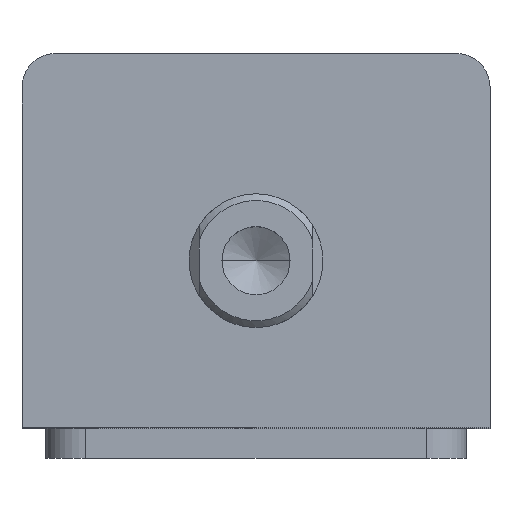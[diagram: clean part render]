
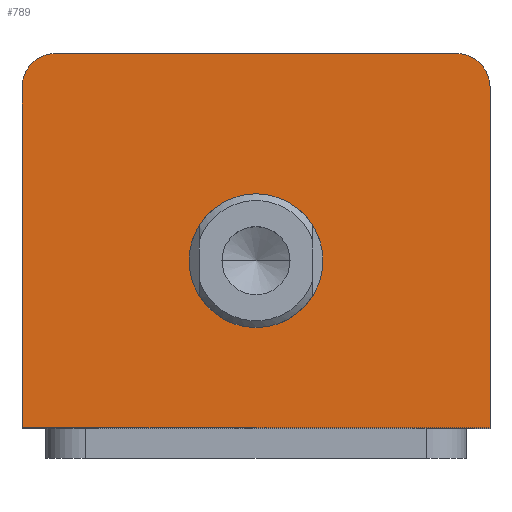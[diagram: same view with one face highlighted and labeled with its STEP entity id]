
A CAD part, top view. The second image highlights one B-rep face of the part: STEP entity #789.
In plain terms, the highlighted planar face has unit normal (0, 0, 1).
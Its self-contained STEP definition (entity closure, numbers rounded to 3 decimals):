
#14 = EDGE_LOOP ( 'NONE', ( #639, #743 ) ) ;
#86 = EDGE_LOOP ( 'NONE', ( #984, #1005, #1006, #1003, #1004, #1007 ) ) ;
#178 = EDGE_CURVE ( 'NONE', #2885, #2841, #2986, .T. ) ;
#198 = EDGE_CURVE ( 'NONE', #2855, #2857, #3021, .T. ) ;
#262 = EDGE_CURVE ( 'NONE', #2853, #2819, #2275, .T. ) ;
#287 = EDGE_CURVE ( 'NONE', #2880, #2855, #2315, .T. ) ;
#319 = DIRECTION ( 'NONE',  ( 1., 0., 0. ) ) ;
#320 = DIRECTION ( 'NONE',  ( 0., 0., 1. ) ) ;
#321 = CARTESIAN_POINT ( 'NONE',  ( 0., -3., 69. ) ) ;
#330 = DIRECTION ( 'NONE',  ( 1., 0., 0. ) ) ;
#331 = DIRECTION ( 'NONE',  ( 0., 0., 1. ) ) ;
#332 = CARTESIAN_POINT ( 'NONE',  ( -30., 23., 69. ) ) ;
#338 = DIRECTION ( 'NONE',  ( 0., -1., 0. ) ) ;
#339 = CARTESIAN_POINT ( 'NONE',  ( -35., 28., 69. ) ) ;
#352 = PLANE ( 'NONE',  #1679 ) ;
#426 = CARTESIAN_POINT ( 'NONE',  ( 0., 0., 69. ) ) ;
#624 = DIRECTION ( 'NONE',  ( 1., 0., 0. ) ) ;
#626 = DIRECTION ( 'NONE',  ( 0., 0., 1. ) ) ;
#639 = ORIENTED_EDGE ( 'NONE', *, *, #1703, .F. ) ;
#743 = ORIENTED_EDGE ( 'NONE', *, *, #262, .F. ) ;
#789 = ADVANCED_FACE ( 'NONE', ( #2444, #2452 ), #352, .T. ) ;
#984 = ORIENTED_EDGE ( 'NONE', *, *, #198, .T. ) ;
#1003 = ORIENTED_EDGE ( 'NONE', *, *, #1696, .T. ) ;
#1004 = ORIENTED_EDGE ( 'NONE', *, *, #1698, .T. ) ;
#1005 = ORIENTED_EDGE ( 'NONE', *, *, #1831, .T. ) ;
#1006 = ORIENTED_EDGE ( 'NONE', *, *, #178, .T. ) ;
#1007 = ORIENTED_EDGE ( 'NONE', *, *, #287, .T. ) ;
#1251 = AXIS2_PLACEMENT_3D ( 'NONE', #2224, #2223, #2225 ) ;
#1255 = AXIS2_PLACEMENT_3D ( 'NONE', #321, #320, #319 ) ;
#1268 = AXIS2_PLACEMENT_3D ( 'NONE', #332, #331, #330 ) ;
#1405 = DIRECTION ( 'NONE',  ( 1., 0., 0. ) ) ;
#1407 = CARTESIAN_POINT ( 'NONE',  ( -35., -28., 69. ) ) ;
#1495 = DIRECTION ( 'NONE',  ( 1., 0., 0. ) ) ;
#1496 = DIRECTION ( 'NONE',  ( 0., 0., 1. ) ) ;
#1501 = CARTESIAN_POINT ( 'NONE',  ( 0., -3., 69. ) ) ;
#1584 = DIRECTION ( 'NONE',  ( 0., 1., 0. ) ) ;
#1585 = CARTESIAN_POINT ( 'NONE',  ( 35., 28., 69. ) ) ;
#1679 = AXIS2_PLACEMENT_3D ( 'NONE', #426, #626, #624 ) ;
#1696 = EDGE_CURVE ( 'NONE', #2841, #2798, #2573, .T. ) ;
#1698 = EDGE_CURVE ( 'NONE', #2798, #2880, #2575, .T. ) ;
#1703 = EDGE_CURVE ( 'NONE', #2819, #2853, #2580, .T. ) ;
#1760 = AXIS2_PLACEMENT_3D ( 'NONE', #1501, #1496, #1495 ) ;
#1831 = EDGE_CURVE ( 'NONE', #2857, #2885, #1861, .T. ) ;
#1861 = CIRCLE ( 'NONE', #1251, 5. ) ;
#2086 = DIRECTION ( 'NONE',  ( -1., 0., 0. ) ) ;
#2092 = CARTESIAN_POINT ( 'NONE',  ( -35., 28., 69. ) ) ;
#2210 = CARTESIAN_POINT ( 'NONE',  ( -35., 23., 69. ) ) ;
#2223 = DIRECTION ( 'NONE',  ( 0., 0., 1. ) ) ;
#2224 = CARTESIAN_POINT ( 'NONE',  ( 30., 23., 69. ) ) ;
#2225 = DIRECTION ( 'NONE',  ( 1., 0., 0. ) ) ;
#2275 = CIRCLE ( 'NONE', #1760, 10. ) ;
#2315 = LINE ( 'NONE', #1407, #2319 ) ;
#2319 = VECTOR ( 'NONE', #1405, 1000. ) ;
#2444 = FACE_BOUND ( 'NONE', #14, .T. ) ;
#2452 = FACE_OUTER_BOUND ( 'NONE', #86, .T. ) ;
#2573 = CIRCLE ( 'NONE', #1268, 5. ) ;
#2575 = LINE ( 'NONE', #339, #2577 ) ;
#2577 = VECTOR ( 'NONE', #338, 1000. ) ;
#2580 = CIRCLE ( 'NONE', #1255, 10. ) ;
#2694 = CARTESIAN_POINT ( 'NONE',  ( 30., 28., 69. ) ) ;
#2699 = CARTESIAN_POINT ( 'NONE',  ( -35., -28., 69. ) ) ;
#2725 = CARTESIAN_POINT ( 'NONE',  ( 35., 23., 69. ) ) ;
#2728 = CARTESIAN_POINT ( 'NONE',  ( 35., -28., 69. ) ) ;
#2730 = CARTESIAN_POINT ( 'NONE',  ( -10., -3., 69. ) ) ;
#2744 = CARTESIAN_POINT ( 'NONE',  ( -30., 28., 69. ) ) ;
#2769 = CARTESIAN_POINT ( 'NONE',  ( 10., -3., 69. ) ) ;
#2798 = VERTEX_POINT ( 'NONE', #2210 ) ;
#2819 = VERTEX_POINT ( 'NONE', #2769 ) ;
#2841 = VERTEX_POINT ( 'NONE', #2744 ) ;
#2853 = VERTEX_POINT ( 'NONE', #2730 ) ;
#2855 = VERTEX_POINT ( 'NONE', #2728 ) ;
#2857 = VERTEX_POINT ( 'NONE', #2725 ) ;
#2880 = VERTEX_POINT ( 'NONE', #2699 ) ;
#2885 = VERTEX_POINT ( 'NONE', #2694 ) ;
#2986 = LINE ( 'NONE', #2092, #2990 ) ;
#2990 = VECTOR ( 'NONE', #2086, 1000. ) ;
#3021 = LINE ( 'NONE', #1585, #3023 ) ;
#3023 = VECTOR ( 'NONE', #1584, 1000. ) ;
